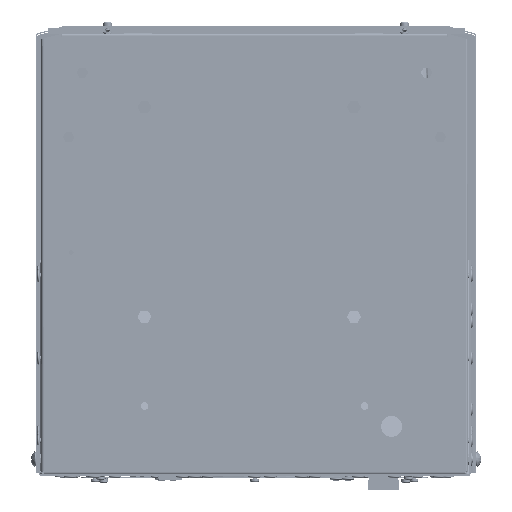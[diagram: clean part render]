
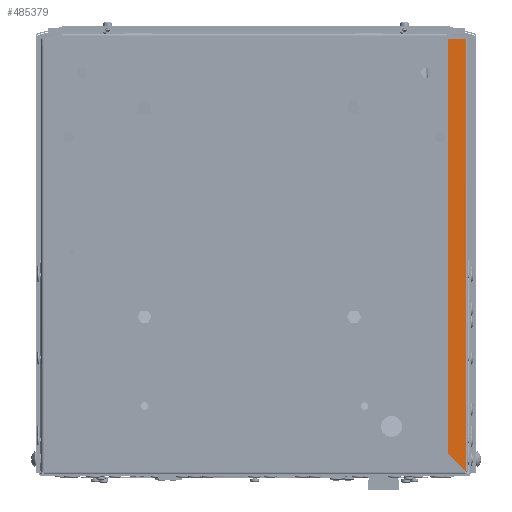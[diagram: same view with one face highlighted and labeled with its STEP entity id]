
A CAD part, front view. The second image highlights one B-rep face of the part: STEP entity #485379.
In plain terms, the highlighted planar face has unit normal (0, -1, 0).
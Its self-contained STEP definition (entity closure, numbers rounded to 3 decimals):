
#6912 = CARTESIAN_POINT ( 'NONE',  ( 192.868, -958.391, -191.018 ) ) ;
#13004 = CARTESIAN_POINT ( 'NONE',  ( 177.078, -958.391, -191.805 ) ) ;
#44177 = EDGE_CURVE ( 'NONE', #275773, #383479, #515873, .T. ) ;
#63013 = CARTESIAN_POINT ( 'NONE',  ( 177.078, -958.391, 201.774 ) ) ;
#73910 = DIRECTION ( 'NONE',  ( 1., 0., 0. ) ) ;
#88138 = PLANE ( 'NONE',  #344260 ) ;
#103708 = DIRECTION ( 'NONE',  ( 0., 0., 1. ) ) ;
#148668 = EDGE_LOOP ( 'NONE', ( #221728, #507462, #506355, #212870 ) ) ;
#189924 = CARTESIAN_POINT ( 'NONE',  ( 192.868, -958.391, -191.018 ) ) ;
#212870 = ORIENTED_EDGE ( 'NONE', *, *, #223231, .F. ) ;
#221728 = ORIENTED_EDGE ( 'NONE', *, *, #542978, .F. ) ;
#223231 = EDGE_CURVE ( 'NONE', #250095, #346734, #267225, .T. ) ;
#225638 = VECTOR ( 'NONE', #103708, 1000. ) ;
#230824 = DIRECTION ( 'NONE',  ( 1., 0., 0. ) ) ;
#250095 = VERTEX_POINT ( 'NONE', #543052 ) ;
#267225 = LINE ( 'NONE', #13004, #225638 ) ;
#275773 = VERTEX_POINT ( 'NONE', #495793 ) ;
#277150 = CARTESIAN_POINT ( 'NONE',  ( 1.078, -958.391, -193.935 ) ) ;
#344260 = AXIS2_PLACEMENT_3D ( 'NONE', #277150, #541944, #230824 ) ;
#346734 = VERTEX_POINT ( 'NONE', #63013 ) ;
#363921 = DIRECTION ( 'NONE',  ( 0., 0., -1. ) ) ;
#364944 = VECTOR ( 'NONE', #491444, 1000. ) ;
#383479 = VERTEX_POINT ( 'NONE', #6912 ) ;
#401403 = EDGE_CURVE ( 'NONE', #346734, #275773, #467673, .T. ) ;
#406260 = CARTESIAN_POINT ( 'NONE',  ( 192.868, -958.391, -191.805 ) ) ;
#413014 = LINE ( 'NONE', #189924, #364944 ) ;
#426092 = VECTOR ( 'NONE', #363921, 1000. ) ;
#467673 = LINE ( 'NONE', #518293, #543614 ) ;
#485379 = ADVANCED_FACE ( 'NONE', ( #495664 ), #88138, .F. ) ;
#491444 = DIRECTION ( 'NONE',  ( -0.707, 0., 0.707 ) ) ;
#495664 = FACE_OUTER_BOUND ( 'NONE', #148668, .T. ) ;
#495793 = CARTESIAN_POINT ( 'NONE',  ( 192.868, -958.391, 201.774 ) ) ;
#506355 = ORIENTED_EDGE ( 'NONE', *, *, #401403, .F. ) ;
#507462 = ORIENTED_EDGE ( 'NONE', *, *, #44177, .F. ) ;
#515873 = LINE ( 'NONE', #406260, #426092 ) ;
#518293 = CARTESIAN_POINT ( 'NONE',  ( 177.078, -958.391, 201.774 ) ) ;
#541944 = DIRECTION ( 'NONE',  ( 0., 1., 0. ) ) ;
#542978 = EDGE_CURVE ( 'NONE', #383479, #250095, #413014, .T. ) ;
#543052 = CARTESIAN_POINT ( 'NONE',  ( 177.078, -958.391, -175.227 ) ) ;
#543614 = VECTOR ( 'NONE', #73910, 1000. ) ;
